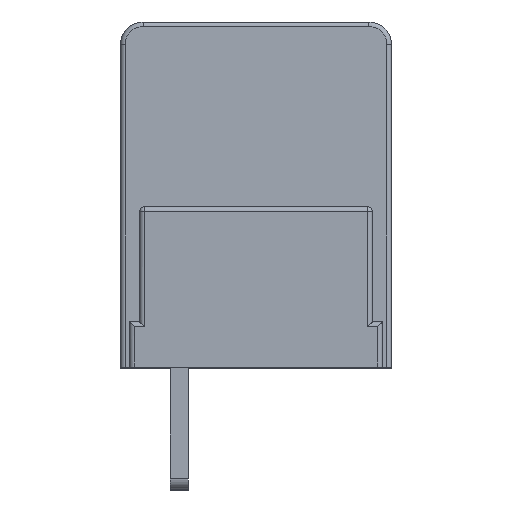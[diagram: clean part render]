
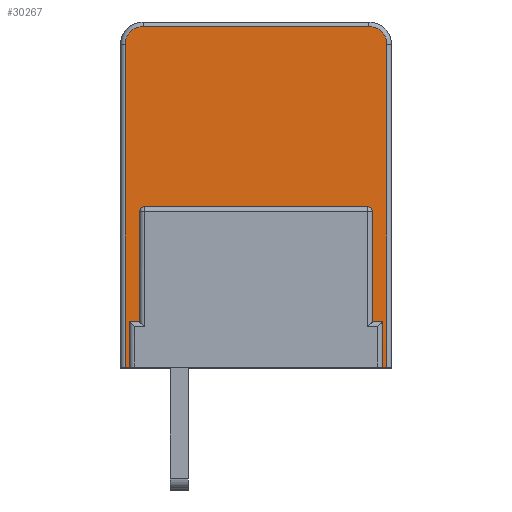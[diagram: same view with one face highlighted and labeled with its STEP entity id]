
A CAD part, top view. The second image highlights one B-rep face of the part: STEP entity #30267.
In plain terms, the highlighted planar face has unit normal (0, 0.009, 1).
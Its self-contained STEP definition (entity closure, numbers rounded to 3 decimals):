
#64=DIRECTION('',(0.,-1.,0.009));
#65=VECTOR('',#64,14.302);
#66=CARTESIAN_POINT('',(11.8,14.303,-6.783));
#67=LINE('',#66,#65);
#68=DIRECTION('',(1.,0.,0.));
#69=VECTOR('',#68,11.6);
#70=CARTESIAN_POINT('',(0.2,0.002,-6.658));
#71=LINE('',#70,#69);
#76=DIRECTION('',(0.,1.,-0.009));
#77=VECTOR('',#76,5.6);
#78=CARTESIAN_POINT('',(1.65,1.502,-6.671));
#79=LINE('',#78,#77);
#100=DIRECTION('',(-1.,0.,0.));
#101=VECTOR('',#100,0.6);
#102=CARTESIAN_POINT('',(1.65,7.102,-6.72));
#103=LINE('',#102,#101);
#109=DIRECTION('',(-1.,0.,0.));
#110=VECTOR('',#109,4.57);
#111=CARTESIAN_POINT('',(8.285,7.102,-6.72));
#112=LINE('',#111,#110);
#118=DIRECTION('',(-1.,0.,0.));
#119=VECTOR('',#118,0.6);
#120=CARTESIAN_POINT('',(10.95,7.102,-6.72));
#121=LINE('',#120,#119);
#262=DIRECTION('',(1.,0.,0.));
#263=VECTOR('',#262,11.2);
#264=CARTESIAN_POINT('',(0.4,0.502,-6.662));
#265=LINE('',#264,#263);
#270=DIRECTION('',(0.,1.,-0.009));
#271=VECTOR('',#270,1.5);
#272=CARTESIAN_POINT('',(11.6,0.502,-6.662));
#273=LINE('',#272,#271);
#374=CARTESIAN_POINT('',(1.05,7.102,-6.72));
#375=CARTESIAN_POINT('',(1.017,7.102,-6.72));
#376=CARTESIAN_POINT('',(0.964,7.087,-6.72));
#377=CARTESIAN_POINT('',(0.906,7.046,-6.72));
#378=CARTESIAN_POINT('',(0.864,6.987,-6.719));
#379=CARTESIAN_POINT('',(0.85,6.935,-6.719));
#380=CARTESIAN_POINT('',(0.85,6.902,-6.718));
#386=DIRECTION('',(0.,-1.,0.009));
#387=VECTOR('',#386,4.9);
#388=CARTESIAN_POINT('',(0.85,6.902,-6.718));
#389=LINE('',#388,#387);
#446=DIRECTION('',(0.,-1.,0.009));
#447=VECTOR('',#446,1.5);
#448=CARTESIAN_POINT('',(0.4,2.002,-6.675));
#449=LINE('',#448,#447);
#454=DIRECTION('',(-1.,0.,0.));
#455=VECTOR('',#454,0.45);
#456=CARTESIAN_POINT('',(0.85,2.002,-6.675));
#457=LINE('',#456,#455);
#482=CARTESIAN_POINT('',(11.15,6.902,-6.718));
#483=CARTESIAN_POINT('',(11.15,6.935,-6.719));
#484=CARTESIAN_POINT('',(11.136,6.987,-6.719));
#485=CARTESIAN_POINT('',(11.094,7.046,-6.72));
#486=CARTESIAN_POINT('',(11.036,7.087,-6.72));
#487=CARTESIAN_POINT('',(10.983,7.102,-6.72));
#488=CARTESIAN_POINT('',(10.95,7.102,-6.72));
#490=DIRECTION('',(0.,1.,-0.009));
#491=VECTOR('',#490,4.9);
#492=CARTESIAN_POINT('',(11.15,2.002,-6.675));
#493=LINE('',#492,#491);
#502=DIRECTION('',(-1.,0.,0.));
#503=VECTOR('',#502,0.45);
#504=CARTESIAN_POINT('',(11.6,2.002,-6.675));
#505=LINE('',#504,#503);
#530=DIRECTION('',(-1.,0.,0.));
#531=VECTOR('',#530,2.004);
#532=CARTESIAN_POINT('',(3.654,1.502,-6.671));
#533=LINE('',#532,#531);
#539=CARTESIAN_POINT('',(3.715,7.102,-6.72));
#540=CARTESIAN_POINT('',(3.694,5.235,-6.704));
#541=CARTESIAN_POINT('',(3.674,3.368,-6.687));
#542=CARTESIAN_POINT('',(3.654,1.502,-6.671));
#548=CARTESIAN_POINT('',(8.346,1.502,-6.671));
#549=CARTESIAN_POINT('',(8.326,3.368,-6.687));
#550=CARTESIAN_POINT('',(8.306,5.235,-6.704));
#551=CARTESIAN_POINT('',(8.285,7.102,-6.72));
#562=DIRECTION('',(-1.,0.,0.));
#563=VECTOR('',#562,2.004);
#564=CARTESIAN_POINT('',(10.35,1.502,-6.671));
#565=LINE('',#564,#563);
#570=DIRECTION('',(0.,-1.,0.009));
#571=VECTOR('',#570,5.6);
#572=CARTESIAN_POINT('',(10.35,7.102,-6.72));
#573=LINE('',#572,#571);
#590=DIRECTION('',(0.,1.,-0.009));
#591=VECTOR('',#590,14.302);
#592=CARTESIAN_POINT('',(0.2,0.002,-6.658));
#593=LINE('',#592,#591);
#600=CARTESIAN_POINT('',(0.2,0.002,
-6.658));
#602=CARTESIAN_POINT('',(1.,14.304,-6.783));
#603=DIRECTION('',(0.,-0.009,-1.));
#604=DIRECTION('',(-1.,0.,0.));
#605=AXIS2_PLACEMENT_3D('',#602,#603,#604);
#617=DIRECTION('',(1.,0.,0.));
#618=VECTOR('',#617,10.);
#619=CARTESIAN_POINT('',(1.,15.103,-6.79));
#620=LINE('',#619,#618);
#635=CARTESIAN_POINT('',(11.,14.304,-6.783));
#636=DIRECTION('',(0.,-0.009,-1.));
#637=DIRECTION('',(0.,1.,-0.009));
#638=AXIS2_PLACEMENT_3D('',#635,#636,#637);
#25703=VERTEX_POINT('',#600);
#25704=CARTESIAN_POINT('',(11.8,0.002,-6.658));
#25705=VERTEX_POINT('',#25704);
#25715=CARTESIAN_POINT('',(0.2,14.303,
-6.783));
#25716=VERTEX_POINT('',#25715);
#25774=CARTESIAN_POINT('',(11.8,14.303,
-6.783));
#25775=VERTEX_POINT('',#25774);
#25776=CARTESIAN_POINT('',(1.,15.103,
-6.79));
#25777=VERTEX_POINT('',#25776);
#25778=CARTESIAN_POINT('',(11.,15.103,
-6.79));
#25779=VERTEX_POINT('',#25778);
#25780=CARTESIAN_POINT('',(1.65,7.102,-6.72));
#25781=CARTESIAN_POINT('',(1.05,7.102,-6.72));
#25782=VERTEX_POINT('',#25780);
#25783=VERTEX_POINT('',#25781);
#25784=VERTEX_POINT('',#380);
#25785=CARTESIAN_POINT('',(0.85,2.002,-6.675));
#25786=VERTEX_POINT('',#25785);
#25787=CARTESIAN_POINT('',(0.4,2.002,-6.675));
#25788=VERTEX_POINT('',#25787);
#25789=CARTESIAN_POINT('',(0.4,0.502,-6.662));
#25790=VERTEX_POINT('',#25789);
#25791=CARTESIAN_POINT('',(11.6,0.502,-6.662));
#25792=VERTEX_POINT('',#25791);
#25793=CARTESIAN_POINT('',(11.6,2.002,-6.675));
#25794=VERTEX_POINT('',#25793);
#25795=CARTESIAN_POINT('',(11.15,2.002,-6.675));
#25796=VERTEX_POINT('',#25795);
#25797=CARTESIAN_POINT('',(11.15,6.902,-6.718));
#25798=VERTEX_POINT('',#25797);
#25799=VERTEX_POINT('',#488);
#25800=CARTESIAN_POINT('',(10.35,7.102,-6.72));
#25801=VERTEX_POINT('',#25800);
#25802=CARTESIAN_POINT('',(10.35,1.502,-6.671));
#25803=VERTEX_POINT('',#25802);
#25804=CARTESIAN_POINT('',(8.346,1.502,
-6.671));
#25805=VERTEX_POINT('',#25804);
#25806=VERTEX_POINT('',#551);
#25807=CARTESIAN_POINT('',(3.715,7.102,-6.72));
#25808=VERTEX_POINT('',#25807);
#25809=VERTEX_POINT('',#542);
#25810=CARTESIAN_POINT('',(1.65,1.502,-6.671));
#25811=VERTEX_POINT('',#25810);
#30212=CARTESIAN_POINT('',(-0.768,7.102,-6.72));
#30213=DIRECTION('',(0.,0.009,1.));
#30214=DIRECTION('',(1.,0.,0.));
#30215=AXIS2_PLACEMENT_3D('',#30212,#30213,#30214);
#30216=PLANE('',#30215);
#30217=ORIENTED_EDGE('',*,*,#30101,.F.);
#30219=ORIENTED_EDGE('',*,*,#30218,.T.);
#30221=ORIENTED_EDGE('',*,*,#30220,.T.);
#30223=ORIENTED_EDGE('',*,*,#30222,.T.);
#30225=ORIENTED_EDGE('',*,*,#30224,.T.);
#30226=ORIENTED_EDGE('',*,*,#30205,.T.);
#30227=EDGE_LOOP('',(#30217,#30219,#30221,#30223,#30225,#30226));
#30228=FACE_OUTER_BOUND('',#30227,.F.);
#30230=ORIENTED_EDGE('',*,*,#30229,.T.);
#30232=ORIENTED_EDGE('',*,*,#30231,.T.);
#30234=ORIENTED_EDGE('',*,*,#30233,.T.);
#30236=ORIENTED_EDGE('',*,*,#30235,.T.);
#30238=ORIENTED_EDGE('',*,*,#30237,.T.);
#30240=ORIENTED_EDGE('',*,*,#30239,.T.);
#30242=ORIENTED_EDGE('',*,*,#30241,.T.);
#30244=ORIENTED_EDGE('',*,*,#30243,.T.);
#30246=ORIENTED_EDGE('',*,*,#30245,.T.);
#30248=ORIENTED_EDGE('',*,*,#30247,.T.);
#30250=ORIENTED_EDGE('',*,*,#30249,.T.);
#30252=ORIENTED_EDGE('',*,*,#30251,.T.);
#30254=ORIENTED_EDGE('',*,*,#30253,.T.);
#30256=ORIENTED_EDGE('',*,*,#30255,.T.);
#30258=ORIENTED_EDGE('',*,*,#30257,.T.);
#30260=ORIENTED_EDGE('',*,*,#30259,.T.);
#30262=ORIENTED_EDGE('',*,*,#30261,.T.);
#30264=ORIENTED_EDGE('',*,*,#30263,.T.);
#30265=EDGE_LOOP('',(#30230,#30232,#30234,#30236,#30238,#30240,#30242,#30244,
#30246,#30248,#30250,#30252,#30254,#30256,#30258,#30260,#30262,#30264));
#30266=FACE_BOUND('',#30265,.F.);
#30267=ADVANCED_FACE('',(#30228,#30266),#30216,.T.);
#381=B_SPLINE_CURVE_WITH_KNOTS('',3,(#374,#375,#376,#377,#378,#379,#380),
.UNSPECIFIED.,.F.,.F.,(4,1,1,1,4),(0.,0.25,0.5,0.75,1.),
.UNSPECIFIED.);
#489=B_SPLINE_CURVE_WITH_KNOTS('',3,(#482,#483,#484,#485,#486,#487,#488),
.UNSPECIFIED.,.F.,.F.,(4,1,1,1,4),(0.,0.25,0.5,0.75,1.),
.UNSPECIFIED.);
#543=B_SPLINE_CURVE_WITH_KNOTS('',3,(#539,#540,#541,#542),.UNSPECIFIED.,.F.,.F.,
(4,4),(0.,1.),.UNSPECIFIED.);
#552=B_SPLINE_CURVE_WITH_KNOTS('',3,(#548,#549,#550,#551),.UNSPECIFIED.,.F.,.F.,
(4,4),(0.,1.),.UNSPECIFIED.);
#606=CIRCLE('',#605,0.8);
#639=CIRCLE('',#638,0.8);
#30101=EDGE_CURVE('',#25703,#25705,#71,.T.);
#30205=EDGE_CURVE('',#25775,#25705,#67,.T.);
#30218=EDGE_CURVE('',#25703,#25716,#593,.T.);
#30220=EDGE_CURVE('',#25716,#25777,#606,.T.);
#30222=EDGE_CURVE('',#25777,#25779,#620,.T.);
#30224=EDGE_CURVE('',#25779,#25775,#639,.T.);
#30229=EDGE_CURVE('',#25811,#25782,#79,.T.);
#30231=EDGE_CURVE('',#25782,#25783,#103,.T.);
#30233=EDGE_CURVE('',#25783,#25784,#381,.T.);
#30235=EDGE_CURVE('',#25784,#25786,#389,.T.);
#30237=EDGE_CURVE('',#25786,#25788,#457,.T.);
#30239=EDGE_CURVE('',#25788,#25790,#449,.T.);
#30241=EDGE_CURVE('',#25790,#25792,#265,.T.);
#30243=EDGE_CURVE('',#25792,#25794,#273,.T.);
#30245=EDGE_CURVE('',#25794,#25796,#505,.T.);
#30247=EDGE_CURVE('',#25796,#25798,#493,.T.);
#30249=EDGE_CURVE('',#25798,#25799,#489,.T.);
#30251=EDGE_CURVE('',#25799,#25801,#121,.T.);
#30253=EDGE_CURVE('',#25801,#25803,#573,.T.);
#30255=EDGE_CURVE('',#25803,#25805,#565,.T.);
#30257=EDGE_CURVE('',#25805,#25806,#552,.T.);
#30259=EDGE_CURVE('',#25806,#25808,#112,.T.);
#30261=EDGE_CURVE('',#25808,#25809,#543,.T.);
#30263=EDGE_CURVE('',#25809,#25811,#533,.T.);
